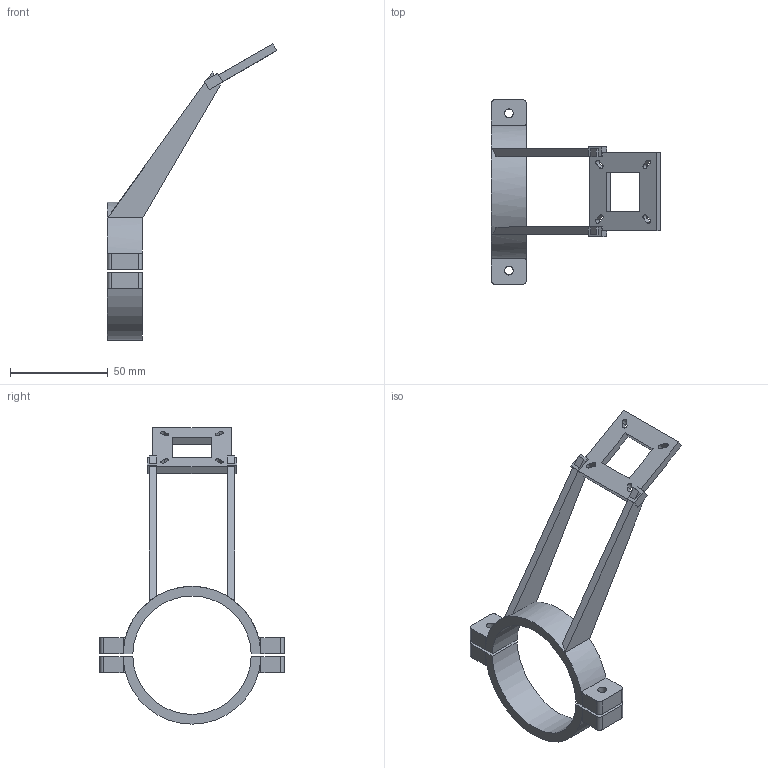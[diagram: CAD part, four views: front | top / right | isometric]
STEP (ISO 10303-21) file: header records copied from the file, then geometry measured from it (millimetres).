
FILE_DESCRIPTION(('Open CASCADE Model'),'2;1');
FILE_NAME('Open CASCADE Shape Model','2026-09-19T10:08:23',('Author'),( 'Open CASCADE'),'Open CASCADE STEP processor 7.9','Open CASCADE 7.9' ,'Unknown');
FILE_SCHEMA(('AUTOMOTIVE_DESIGN { 1 0 10303 214 1 1 1 1 }'));
Length unit declared in the file: millimetre
Products named in the file (3): fixed_board_60mm; upper; lower
Assembly tree (2 placements, depth 2):
  fixed_board_60mm
    upper
    lower
Bounding box: 86.82 x 94.6 x 151.8 mm (x, y, z)
Volume: 36854.3 mm3; surface area: 20965.4 mm2
Topology: 2 solids, 2 shells, 112 faces, 324 edges, 216 vertices
Faces by surface type: plane 80, cylinder 32
Full cylindrical faces by diameter (mm): 4.5 x4
Entity records: 8427 total; most frequent: CARTESIAN_POINT 2105, DIRECTION 1108, LINE 714, VECTOR 714, ORIENTED_EDGE 648, PCURVE 648, DEFINITIONAL_REPRESENTATION 648, EDGE_CURVE 324
